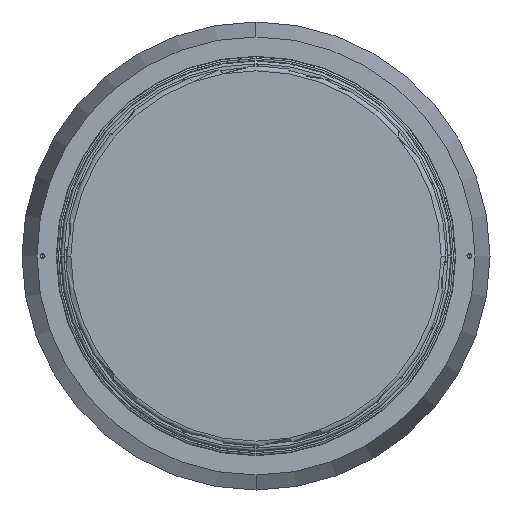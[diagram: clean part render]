
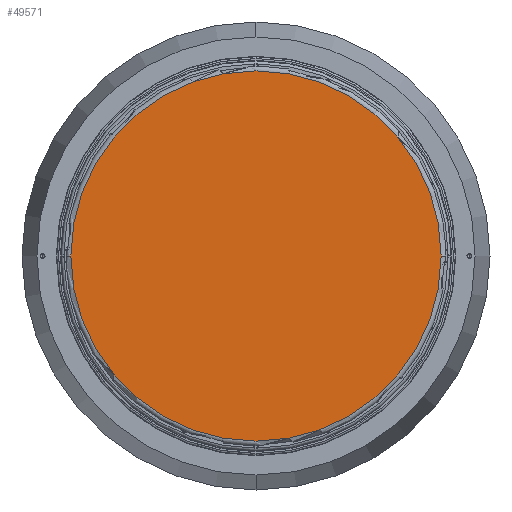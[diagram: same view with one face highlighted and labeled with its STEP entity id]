
A CAD part, front view. The second image highlights one B-rep face of the part: STEP entity #49571.
In plain terms, the highlighted planar face has unit normal (0, -1, 0).
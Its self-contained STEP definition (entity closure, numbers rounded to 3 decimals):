
#2238 = AXIS2_PLACEMENT_3D ( 'NONE', #98521, #27644, #110421 ) ;
#3710 = EDGE_CURVE ( 'NONE', #132053, #55901, #25396, .T. ) ;
#11126 = AXIS2_PLACEMENT_3D ( 'NONE', #136549, #127697, #126688 ) ;
#17764 = ORIENTED_EDGE ( 'NONE', *, *, #114737, .F. ) ;
#25396 = CIRCLE ( 'NONE', #11126, 327.485 ) ;
#27644 = DIRECTION ( 'NONE',  ( 0., -1., 0. ) ) ;
#33363 = EDGE_LOOP ( 'NONE', ( #67193, #17764 ) ) ;
#33943 = CARTESIAN_POINT ( 'NONE',  ( -327.485, -815., 0. ) ) ;
#39957 = DIRECTION ( 'NONE',  ( 0., 1., 0. ) ) ;
#44473 = CARTESIAN_POINT ( 'NONE',  ( 327.485, -815., 0. ) ) ;
#44993 = FACE_OUTER_BOUND ( 'NONE', #33363, .T. ) ;
#49571 = ADVANCED_FACE ( 'NONE', ( #44993 ), #109910, .T. ) ;
#55901 = VERTEX_POINT ( 'NONE', #44473 ) ;
#67193 = ORIENTED_EDGE ( 'NONE', *, *, #3710, .F. ) ;
#98521 = CARTESIAN_POINT ( 'NONE',  ( -327.485, -815., 0. ) ) ;
#109910 = PLANE ( 'NONE',  #2238 ) ;
#110421 = DIRECTION ( 'NONE',  ( 0., 0., -1. ) ) ;
#110867 = CARTESIAN_POINT ( 'NONE',  ( 0., -815., 0. ) ) ;
#114737 = EDGE_CURVE ( 'NONE', #55901, #132053, #121503, .T. ) ;
#121503 = CIRCLE ( 'NONE', #142481, 327.485 ) ;
#122737 = DIRECTION ( 'NONE',  ( 0., 0., 1. ) ) ;
#126688 = DIRECTION ( 'NONE',  ( 0., 0., 1. ) ) ;
#127697 = DIRECTION ( 'NONE',  ( 0., 1., 0. ) ) ;
#132053 = VERTEX_POINT ( 'NONE', #33943 ) ;
#136549 = CARTESIAN_POINT ( 'NONE',  ( 0., -815., 0. ) ) ;
#142481 = AXIS2_PLACEMENT_3D ( 'NONE', #110867, #39957, #122737 ) ;
